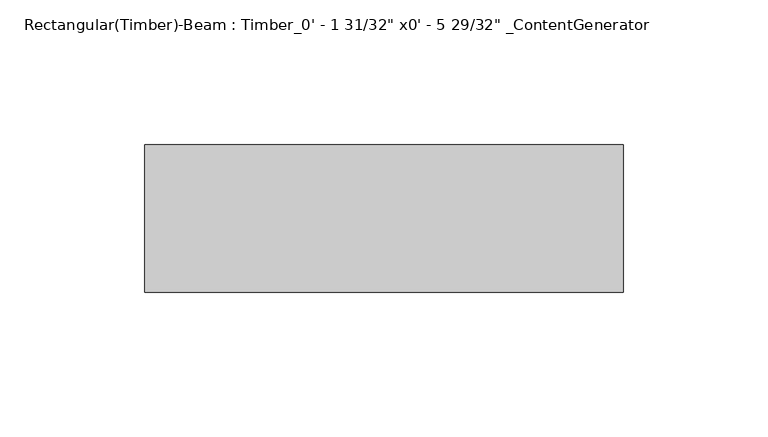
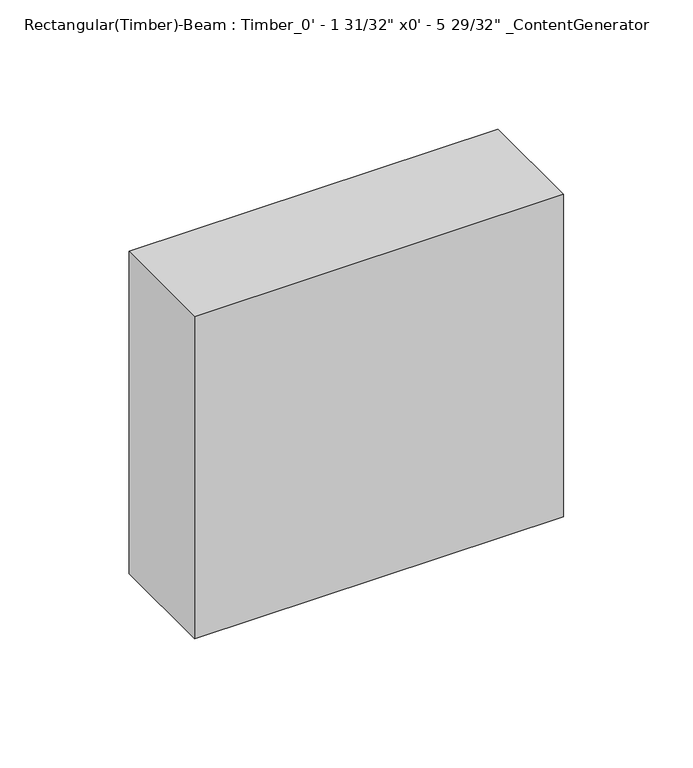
"""IFC4 building model written with IfcOpenShell, lengths in millimetres: beam geometry."""

from ifc_helpers import new_model, si_unit, frame, origin, place, context, project, spatial, polyline, outline, extrude, source, transform, mapped, element, save


def beam_ac3a78cb(model_context):
    return source(origin(), model_context, "Body", "SweptSolid", [
        extrude(outline(polyline([(95.2549994, 25.4), (95.2549994, -25.4), (-69.855, -25.4), (-69.855, 25.4), (95.2549994, 25.4)])), frame((0.0, 0.0, -76.2), z_axis=(0.0, 0.0, 1.0), x_axis=(1.0, 0.0, 0.0)), (0.0, 0.0, 1.0), 152.4),
    ])


if __name__ == "__main__":
    model = new_model("IFC4")
    model_context = context("Model", 3, world=origin())
    ifc_project = project(units=[si_unit("LENGTHUNIT", "METRE", prefix="MILLI")], contexts=[model_context])
    site = spatial("IfcSite", under=ifc_project)
    building = spatial("IfcBuilding", under=site)
    placement = place(None, origin())
    beam_shape = beam_ac3a78cb(model_context)
    element("IfcBeam", 1, ObjectType="Rectangular(Timber)-Beam : Timber_0' - 1 31/32\" x0' - 5 29/32\" _ContentGenerator", at=placement, inside=building, context=model_context, shape_type="MappedRepresentation", body=[
        mapped(beam_shape, transform((0.0, 0.0, 0.0), x_axis=(1.0, 0.0, 0.0), y_axis=(0.0, 1.0, 0.0), z_axis=(0.0, 0.0, 1.0))),
    ])
    save(model, "model.ifc")
